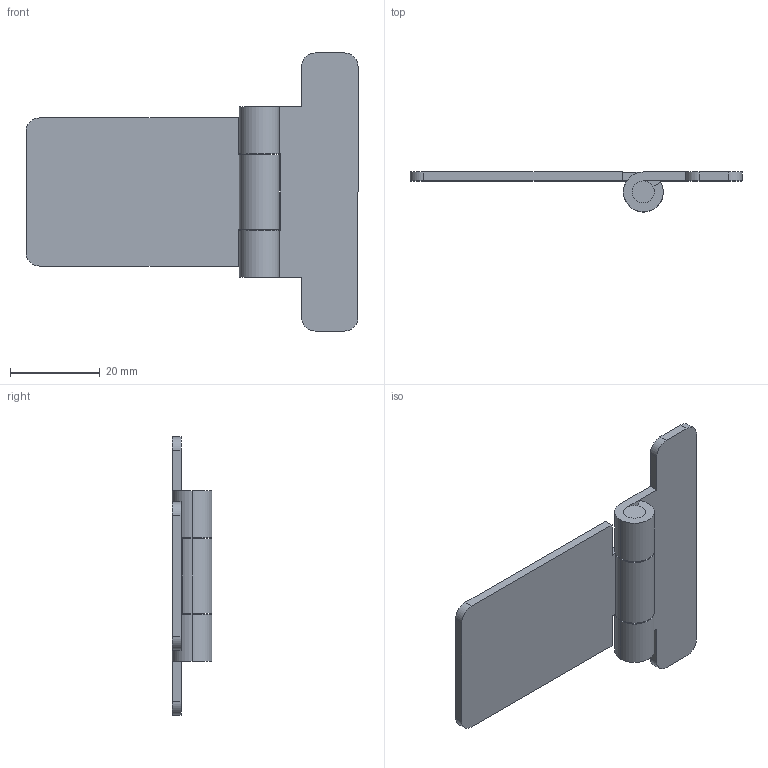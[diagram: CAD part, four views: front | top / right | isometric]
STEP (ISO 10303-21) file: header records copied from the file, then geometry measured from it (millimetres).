
FILE_DESCRIPTION((''),'2;1');
FILE_NAME('6047.01.stp','2012-11-22T11:54:35',(''),(''),'Mechanical Desktop 2006','Mechanical Desktop 2006',', , ');
FILE_SCHEMA(('CONFIG_CONTROL_DESIGN'));
Length unit declared in the file: millimetre
Products named in the file (1): 6047.01
Bounding box: 74 x 8.9 x 62 mm (x, y, z)
Volume: 7438.6 mm3; surface area: 7817.9 mm2
Topology: 2 solids, 2 shells, 50 faces, 138 edges, 92 vertices
Faces by surface type: plane 26, cylinder 24
Entity records: 1707 total; most frequent: DIRECTION 292, CARTESIAN_POINT 281, ORIENTED_EDGE 276, EDGE_CURVE 138, AXIS2_PLACEMENT_3D 103, VERTEX_POINT 92, VECTOR 86, LINE 86
